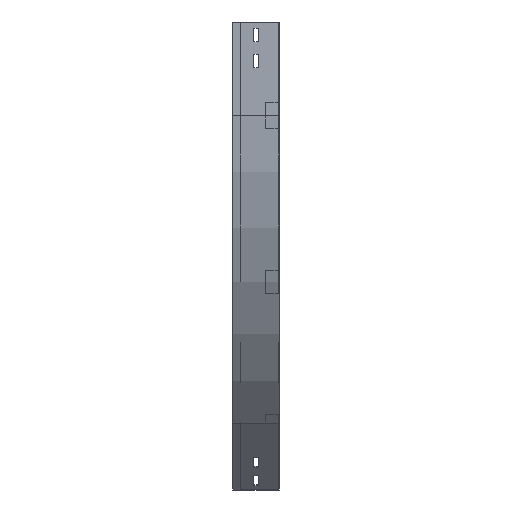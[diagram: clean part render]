
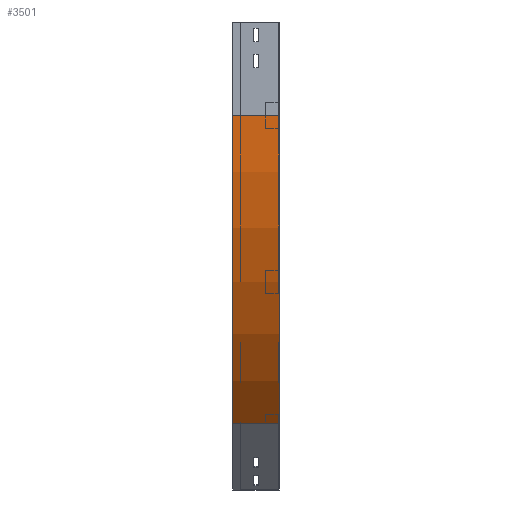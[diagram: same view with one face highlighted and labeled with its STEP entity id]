
A CAD part, left-side view. The second image highlights one B-rep face of the part: STEP entity #3501.
In plain terms, the highlighted cylindrical face has radius 700 mm (diameter 1400 mm), a partial arc.
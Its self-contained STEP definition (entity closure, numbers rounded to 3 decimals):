
#1 = VERTEX_POINT ( 'NONE', #1255 ) ;
#71 = EDGE_CURVE ( 'NONE', #1, #3352, #2429, .T. ) ;
#256 = VECTOR ( 'NONE', #489, 1000. ) ;
#308 = CARTESIAN_POINT ( 'NONE',  ( 700., 0., -150. ) ) ;
#313 = CARTESIAN_POINT ( 'NONE',  ( 0., 0., -150. ) ) ;
#348 = ORIENTED_EDGE ( 'NONE', *, *, #71, .T. ) ;
#489 = DIRECTION ( 'NONE',  ( 0., -1., 0. ) ) ;
#770 = AXIS2_PLACEMENT_3D ( 'NONE', #3296, #2361, #3254 ) ;
#969 = CARTESIAN_POINT ( 'NONE',  ( 700., 0., -150. ) ) ;
#1132 = CARTESIAN_POINT ( 'NONE',  ( 205.025, 0., -644.975 ) ) ;
#1188 = FACE_OUTER_BOUND ( 'NONE', #3503, .T. ) ;
#1255 = CARTESIAN_POINT ( 'NONE',  ( 0., 75., -150. ) ) ;
#1398 = CARTESIAN_POINT ( 'NONE',  ( 205.025, 75., -644.975 ) ) ;
#1487 = EDGE_CURVE ( 'NONE', #3352, #3457, #2507, .T. ) ;
#1495 = DIRECTION ( 'NONE',  ( 0., -1., 0. ) ) ;
#1538 = ORIENTED_EDGE ( 'NONE', *, *, #2047, .F. ) ;
#1547 = DIRECTION ( 'NONE',  ( 0., 0., -1. ) ) ;
#1777 = LINE ( 'NONE', #313, #2370 ) ;
#2047 = EDGE_CURVE ( 'NONE', #1, #3652, #1777, .T. ) ;
#2141 = DIRECTION ( 'NONE',  ( -1., 0., 0. ) ) ;
#2332 = DIRECTION ( 'NONE',  ( 0., -1., 0. ) ) ;
#2361 = DIRECTION ( 'NONE',  ( 0., -1., 0. ) ) ;
#2370 = VECTOR ( 'NONE', #1495, 1000. ) ;
#2429 = CIRCLE ( 'NONE', #770, 700. ) ;
#2488 = CARTESIAN_POINT ( 'NONE',  ( 0., 0., -150. ) ) ;
#2507 = LINE ( 'NONE', #3154, #256 ) ;
#2711 = CYLINDRICAL_SURFACE ( 'NONE', #3197, 700. ) ;
#2903 = EDGE_CURVE ( 'NONE', #3652, #3457, #3143, .T. ) ;
#3143 = CIRCLE ( 'NONE', #3772, 700. ) ;
#3154 = CARTESIAN_POINT ( 'NONE',  ( 205.025, 0., -644.975 ) ) ;
#3155 = ORIENTED_EDGE ( 'NONE', *, *, #2903, .F. ) ;
#3197 = AXIS2_PLACEMENT_3D ( 'NONE', #308, #2332, #1547 ) ;
#3240 = ORIENTED_EDGE ( 'NONE', *, *, #1487, .T. ) ;
#3254 = DIRECTION ( 'NONE',  ( -1., 0., 0. ) ) ;
#3296 = CARTESIAN_POINT ( 'NONE',  ( 700., 75., -150. ) ) ;
#3352 = VERTEX_POINT ( 'NONE', #1398 ) ;
#3457 = VERTEX_POINT ( 'NONE', #1132 ) ;
#3501 = ADVANCED_FACE ( 'NONE', ( #1188 ), #2711, .T. ) ;
#3503 = EDGE_LOOP ( 'NONE', ( #3155, #1538, #348, #3240 ) ) ;
#3652 = VERTEX_POINT ( 'NONE', #2488 ) ;
#3664 = DIRECTION ( 'NONE',  ( 0., -1., 0. ) ) ;
#3772 = AXIS2_PLACEMENT_3D ( 'NONE', #969, #3664, #2141 ) ;
